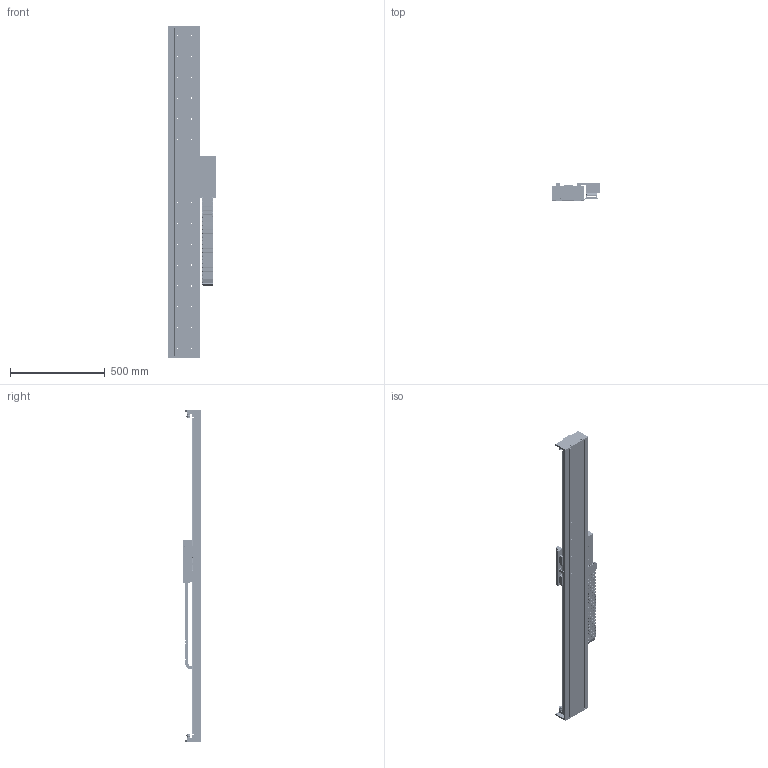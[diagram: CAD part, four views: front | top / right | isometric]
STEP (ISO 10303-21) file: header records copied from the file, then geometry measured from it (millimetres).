
FILE_DESCRIPTION (( 'STEP AP203' ), '1' );
FILE_NAME ('STF20120M-xC1B-Axx.STEP', '2007-06-22T21:35:30', ( 'Yaskawa' ), ( 'Yaskawa' ), 'SwSTEP 2.0', 'SolidWorks 2007', '' );
FILE_SCHEMA (( 'CONFIG_CONTROL_DESIGN' ));
Length unit declared in the file: millimetre
Products named in the file (59): Mult-SR15+580LY_012; 07.50.028.0_114; 07.50.028.0_120; 07.50.028.0_121; SGLFM-20756AC; 07.50.028.0_122; Complete Carriage; End Stop with Bumper; STF20120M-xC1B-Axx; STF2035-004 Flag; Bumper-Medium; STF20BM Base_STF20BM-012; SSR15W Block; SGLFM-20540AC; STF2035-005-R2 Cable Router; STF2035-001B F20-120 Carriage; STF2035-003 Renishaw Encoder Mount; RGH22B; SGLFW-20A120AP; STF2035-006 Endplate; STCM-R1; STF2035-002A-R2 F2035 Carriage Horn; STCM-001-R2 Cable Bracket; STCM-002-R2 Cable Assembly Front; STCM-003 Cable Assembly Bottom; STCM-004 Cable Assembly Side; STCM-005-R1 Cable Assembly Cover; STCM-006-R1 Upper E-chain Bracket; Serial Converter; STCM-007 Lower E-Chain Bracket; STF20120M; 07.50.028.0_96; 07.50.028.0_97; 07.50.028.0_98; 07.50.028.0_99; 07.50.028.0_102; 07.50.028.0_117; 07.50.028.0_100; 07.50.028.0_101; 07.50.028.0_103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
Assembly tree (88 placements, depth 4):
  STF20120M-xC1B-Axx
    STF2035-006 Endplate  x2
    STF20BM Base_STF20BM-012
      Mult-SR15+580LY_012  x2
      End Stop with Bumper  x4
        STF2035-007 End Stop
        Bumper-Medium
      STF20BM Base_STF20BM-012
      SGLFM-20324AC
      SGLFM-20756AC
      SGLFM-20540AC
    STCM-007 Lower E-Chain Bracket
    Complete Carriage
      STCM-R1
        STCM-005-R1 Cable Assembly Cover
        STCM-006-R1 Upper E-chain Bracket
        STCM-002-R2 Cable Assembly Front
        Serial Converter
        STCM-001-R2 Cable Bracket
        STCM-004 Cable Assembly Side
        STCM-003 Cable Assembly Bottom
      STF20-120 SSR15W Carriage-R2
        STF2035-002A-R2 F2035 Carriage Horn  x2
        SSR15W Block  x4
        SGLFW-20A120AP
        STF2035-001B F20-120 Carriage
        STF2035-003 Renishaw Encoder Mount
        STF2035-005-R2 Cable Router
        RGH22B
        STF2035-004 Flag
    STF20120M
      07.50.028.0_109
      07.50.028.0_119
      07.50.028.0_120
      07.50.028.0_98
      07.50.028.0_105  x11
      07.50.028.0_117
      07.50.028.0_112
      07.50.028.0_111  x12
      07.50.028.0_101
      07.50.028.0_103
      07.50.028.0_96
      07.50.028.0_104
      07.50.028.0_115
      07.50.028.0_108
      07.50.028.0_116
      07.50.028.0_113
      07.50.028.0_106
      07.50.028.0_97
      07.50.028.0_107
      07.50.028.0_99
      07.50.028.0_114
      07.50.028.0_122
      07.50.028.0_102
      07.50.028.0_110
      07.50.028.0_118
      07.50.028.0_121
      07.50.028.0_123
      07.50.028.0_100
Bounding box: 251.03 x 94.7 x 1749.05 mm (x, y, z)
Volume: 8048383.6 mm3; surface area: 2231924.3 mm2
Topology: 132 solids, 132 shells, 7078 faces, 18423 edges, 11781 vertices
Faces by surface type: plane 3606, cylinder 2914, cone 510, bspline 44, torus 4
Entity records: 149162 total; most frequent: DIRECTION 25237, CARTESIAN_POINT 24747, ORIENTED_EDGE 23454, EDGE_CURVE 11727, AXIS2_PLACEMENT_3D 8791, VERTEX_POINT 7688, VECTOR 7655, LINE 7655
